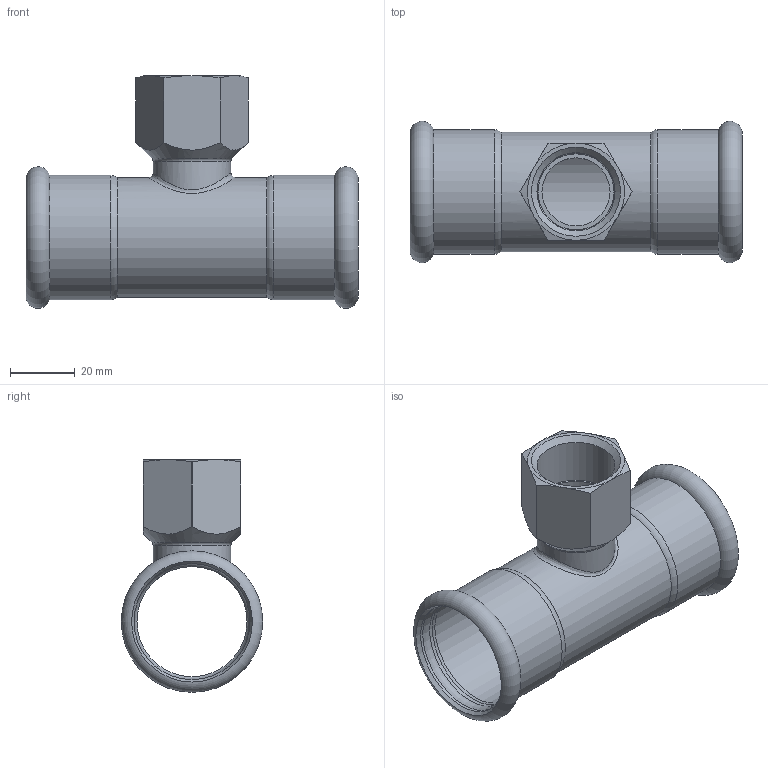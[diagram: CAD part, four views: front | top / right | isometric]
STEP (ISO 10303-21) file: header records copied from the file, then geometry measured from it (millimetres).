
FILE_DESCRIPTION(/* description */ (''),/* implementation_level */ '2;1');
FILE_NAME(/* name */ 'R:\Disegni3D_Area_Manager\Steelpres.step\389_STEELPRES\389304035_Steelpres.stp',/* time_stamp */ '2022-10-21T15:39:49+02:00',/* author */ ('Vault'),/* organization */ ('Raccorderie metalliche s.p.a. '),/* preprocessor_version */ 'ST-DEVELOPER v18.1',/* originating_system */ 'Autodesk Inventor 2020',/* authorisation */ 'Raccorderie metalliche s.p.a. ');
FILE_SCHEMA (('AUTOMOTIVE_DESIGN { 1 0 10303 214 3 1 1 }'));
Length unit declared in the file: millimetre
Products named in the file (1): 389304035_Steelpres
Bounding box: 102.5 x 43.68 x 71.84 mm (x, y, z)
Volume: 29317 mm3; surface area: 29704.3 mm2
Topology: 1 solids, 1 shells, 54 faces, 169 edges, 118 vertices
Faces by surface type: cylinder 21, torus 11, cone 11, plane 9, bspline 2
Full cylindrical faces by diameter (mm): 21 x1, 21.6 x1, 23.48 x1, 24 x1, 24.117 x1, 34 x1, 35.4 x2, 35.8 x4, 37 x1, 38.4 x2
Entity records: 2324 total; most frequent: CARTESIAN_POINT 686, DIRECTION 364, ORIENTED_EDGE 342, EDGE_CURVE 171, AXIS2_PLACEMENT_3D 165, VERTEX_POINT 120, CIRCLE 112, EDGE_LOOP 59
